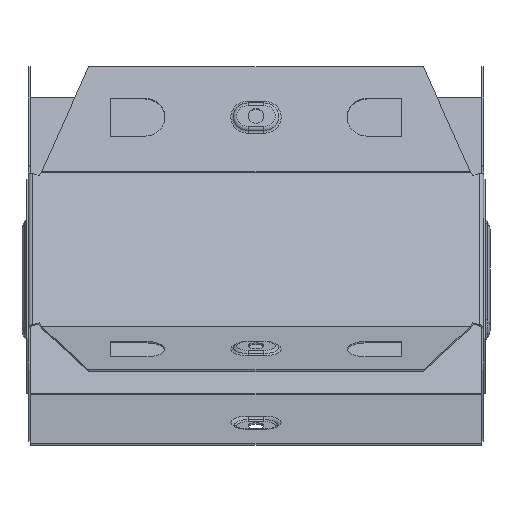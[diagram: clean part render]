
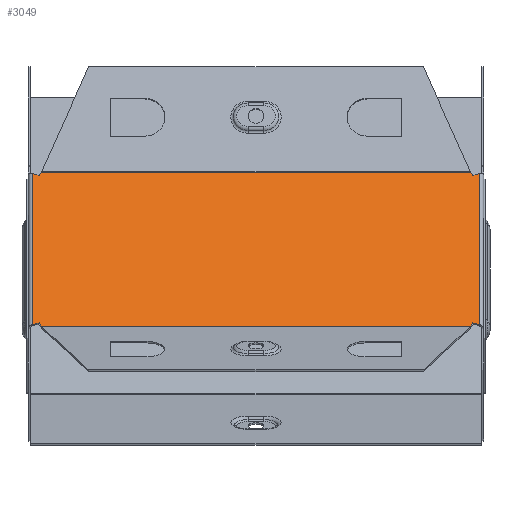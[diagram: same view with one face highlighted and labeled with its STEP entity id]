
A CAD part, front view. The second image highlights one B-rep face of the part: STEP entity #3049.
In plain terms, the highlighted planar face has unit normal (0, -0.707, 0.707).
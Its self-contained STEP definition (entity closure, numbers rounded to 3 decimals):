
#226 = LINE ( 'NONE', #7560, #9398 ) ;
#316 = ORIENTED_EDGE ( 'NONE', *, *, #4078, .T. ) ;
#394 = VERTEX_POINT ( 'NONE', #4617 ) ;
#441 = LINE ( 'NONE', #1792, #6146 ) ;
#458 = EDGE_CURVE ( 'NONE', #4443, #5581, #3630, .T. ) ;
#518 = DIRECTION ( 'NONE',  ( 0.383, 0.653, 0.653 ) ) ;
#519 = CARTESIAN_POINT ( 'NONE',  ( -100.299, 2.258, -69.859 ) ) ;
#787 = VERTEX_POINT ( 'NONE', #956 ) ;
#820 = VECTOR ( 'NONE', #2303, 1000. ) ;
#956 = CARTESIAN_POINT ( 'NONE',  ( 95.217, 3.747, -68.371 ) ) ;
#1286 = DIRECTION ( 'NONE',  ( -0.924, -0.271, -0.271 ) ) ;
#1466 = LINE ( 'NONE', #10395, #4419 ) ;
#1597 = VECTOR ( 'NONE', #6016, 1000. ) ;
#1710 = LINE ( 'NONE', #3132, #8268 ) ;
#1792 = CARTESIAN_POINT ( 'NONE',  ( 73.5, -33.327, -105.445 ) ) ;
#2012 = CARTESIAN_POINT ( 'NONE',  ( 98.2, 69.245, -2.873 ) ) ;
#2164 = CARTESIAN_POINT ( 'NONE',  ( -100.299, 69.859, -2.258 ) ) ;
#2270 = CARTESIAN_POINT ( 'NONE',  ( -95.217, 3.747, -68.371 ) ) ;
#2278 = LINE ( 'NONE', #2270, #1597 ) ;
#2303 = DIRECTION ( 'NONE',  ( 0.924, 0.271, 0.271 ) ) ;
#2628 = EDGE_CURVE ( 'NONE', #3068, #3808, #2899, .T. ) ;
#2899 = LINE ( 'NONE', #519, #820 ) ;
#3005 = EDGE_CURVE ( 'NONE', #10132, #394, #7368, .T. ) ;
#3049 = ADVANCED_FACE ( 'NONE', ( #10923 ), #4712, .F. ) ;
#3068 = VERTEX_POINT ( 'NONE', #4671 ) ;
#3115 = EDGE_LOOP ( 'NONE', ( #4406, #7252, #9268, #4158, #6971, #8540, #7837, #7844, #316, #10207, #3568, #5515 ) ) ;
#3132 = CARTESIAN_POINT ( 'NONE',  ( 98.2, 69.859, -2.258 ) ) ;
#3229 = EDGE_CURVE ( 'NONE', #7131, #4072, #9031, .T. ) ;
#3443 = CARTESIAN_POINT ( 'NONE',  ( -95.217, 3.747, -68.371 ) ) ;
#3568 = ORIENTED_EDGE ( 'NONE', *, *, #6511, .T. ) ;
#3630 = LINE ( 'NONE', #2164, #5874 ) ;
#3808 = VERTEX_POINT ( 'NONE', #3443 ) ;
#4052 = EDGE_CURVE ( 'NONE', #787, #5994, #7337, .T. ) ;
#4060 = CARTESIAN_POINT ( 'NONE',  ( 95.217, 68.371, -3.747 ) ) ;
#4072 = VERTEX_POINT ( 'NONE', #4060 ) ;
#4078 = EDGE_CURVE ( 'NONE', #5581, #3068, #226, .T. ) ;
#4113 = DIRECTION ( 'NONE',  ( 0., -0.707, -0.707 ) ) ;
#4158 = ORIENTED_EDGE ( 'NONE', *, *, #3229, .T. ) ;
#4406 = ORIENTED_EDGE ( 'NONE', *, *, #7981, .T. ) ;
#4419 = VECTOR ( 'NONE', #7768, 1000. ) ;
#4443 = VERTEX_POINT ( 'NONE', #9271 ) ;
#4546 = CARTESIAN_POINT ( 'NONE',  ( -94.345, 69.859, -2.258 ) ) ;
#4617 = CARTESIAN_POINT ( 'NONE',  ( -94.345, 2.258, -69.859 ) ) ;
#4671 = CARTESIAN_POINT ( 'NONE',  ( -98.2, 2.873, -69.245 ) ) ;
#4673 = LINE ( 'NONE', #6875, #8278 ) ;
#4712 = PLANE ( 'NONE',  #5711 ) ;
#4925 = DIRECTION ( 'NONE',  ( -0.383, 0.653, 0.653 ) ) ;
#5007 = VECTOR ( 'NONE', #7412, 1000. ) ;
#5515 = ORIENTED_EDGE ( 'NONE', *, *, #3005, .F. ) ;
#5581 = VERTEX_POINT ( 'NONE', #5752 ) ;
#5632 = CARTESIAN_POINT ( 'NONE',  ( 98.2, 70., -2.118 ) ) ;
#5709 = EDGE_CURVE ( 'NONE', #7131, #5994, #4673, .T. ) ;
#5711 = AXIS2_PLACEMENT_3D ( 'NONE', #5632, #8312, #8207 ) ;
#5752 = CARTESIAN_POINT ( 'NONE',  ( -98.2, 69.245, -2.873 ) ) ;
#5874 = VECTOR ( 'NONE', #10949, 1000. ) ;
#5994 = VERTEX_POINT ( 'NONE', #8411 ) ;
#6016 = DIRECTION ( 'NONE',  ( 0.383, -0.653, -0.653 ) ) ;
#6073 = EDGE_CURVE ( 'NONE', #4072, #8344, #6589, .T. ) ;
#6096 = EDGE_CURVE ( 'NONE', #8344, #9734, #1710, .T. ) ;
#6146 = VECTOR ( 'NONE', #518, 1000. ) ;
#6161 = VECTOR ( 'NONE', #4925, 1000. ) ;
#6371 = VECTOR ( 'NONE', #1286, 1000. ) ;
#6426 = CARTESIAN_POINT ( 'NONE',  ( 98.2, 2.258, -69.859 ) ) ;
#6511 = EDGE_CURVE ( 'NONE', #3808, #394, #2278, .T. ) ;
#6586 = CARTESIAN_POINT ( 'NONE',  ( 100.299, 69.859, -2.258 ) ) ;
#6589 = LINE ( 'NONE', #6737, #6161 ) ;
#6737 = CARTESIAN_POINT ( 'NONE',  ( 73.5, 105.445, 33.327 ) ) ;
#6816 = DIRECTION ( 'NONE',  ( -1., 0., 0. ) ) ;
#6875 = CARTESIAN_POINT ( 'NONE',  ( 98.2, 70., -2.118 ) ) ;
#6971 = ORIENTED_EDGE ( 'NONE', *, *, #6073, .T. ) ;
#7131 = VERTEX_POINT ( 'NONE', #2012 ) ;
#7252 = ORIENTED_EDGE ( 'NONE', *, *, #4052, .T. ) ;
#7337 = LINE ( 'NONE', #10226, #9140 ) ;
#7368 = LINE ( 'NONE', #6426, #5007 ) ;
#7411 = EDGE_CURVE ( 'NONE', #9734, #4443, #1466, .T. ) ;
#7412 = DIRECTION ( 'NONE',  ( -1., 0., 0. ) ) ;
#7529 = CARTESIAN_POINT ( 'NONE',  ( 94.345, 2.258, -69.859 ) ) ;
#7560 = CARTESIAN_POINT ( 'NONE',  ( -98.2, 70., -2.118 ) ) ;
#7598 = DIRECTION ( 'NONE',  ( 0.924, -0.271, -0.271 ) ) ;
#7768 = DIRECTION ( 'NONE',  ( -0.383, -0.653, -0.653 ) ) ;
#7837 = ORIENTED_EDGE ( 'NONE', *, *, #7411, .T. ) ;
#7844 = ORIENTED_EDGE ( 'NONE', *, *, #458, .T. ) ;
#7981 = EDGE_CURVE ( 'NONE', #10132, #787, #441, .T. ) ;
#8207 = DIRECTION ( 'NONE',  ( 0., 0.707, 0.707 ) ) ;
#8268 = VECTOR ( 'NONE', #6816, 1000. ) ;
#8278 = VECTOR ( 'NONE', #4113, 1000. ) ;
#8312 = DIRECTION ( 'NONE',  ( 0., 0.707, -0.707 ) ) ;
#8344 = VERTEX_POINT ( 'NONE', #10430 ) ;
#8411 = CARTESIAN_POINT ( 'NONE',  ( 98.2, 2.873, -69.245 ) ) ;
#8457 = DIRECTION ( 'NONE',  ( 0., -0.707, -0.707 ) ) ;
#8540 = ORIENTED_EDGE ( 'NONE', *, *, #6096, .T. ) ;
#9031 = LINE ( 'NONE', #6586, #6371 ) ;
#9140 = VECTOR ( 'NONE', #7598, 1000. ) ;
#9268 = ORIENTED_EDGE ( 'NONE', *, *, #5709, .F. ) ;
#9271 = CARTESIAN_POINT ( 'NONE',  ( -95.217, 68.371, -3.747 ) ) ;
#9398 = VECTOR ( 'NONE', #8457, 1000. ) ;
#9734 = VERTEX_POINT ( 'NONE', #4546 ) ;
#10132 = VERTEX_POINT ( 'NONE', #7529 ) ;
#10207 = ORIENTED_EDGE ( 'NONE', *, *, #2628, .T. ) ;
#10226 = CARTESIAN_POINT ( 'NONE',  ( 100.299, 2.258, -69.859 ) ) ;
#10395 = CARTESIAN_POINT ( 'NONE',  ( -95.217, 68.371, -3.747 ) ) ;
#10430 = CARTESIAN_POINT ( 'NONE',  ( 94.345, 69.859, -2.258 ) ) ;
#10923 = FACE_OUTER_BOUND ( 'NONE', #3115, .T. ) ;
#10949 = DIRECTION ( 'NONE',  ( -0.924, 0.271, 0.271 ) ) ;
